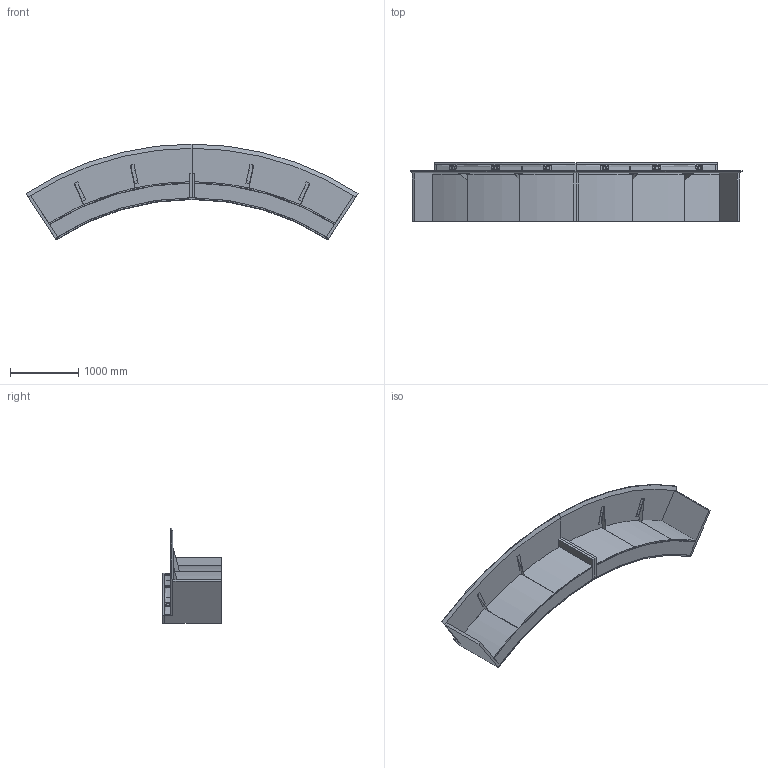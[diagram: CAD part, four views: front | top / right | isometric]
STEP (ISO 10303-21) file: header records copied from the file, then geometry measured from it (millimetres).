
FILE_DESCRIPTION(/* description */ ('','CAx-IF Rec.Pracs.---Representation and Presentation of Product Manufacturing Information (PMI)---4.0---2014-10-13'),/* implementation_level */ '2;1');
FILE_NAME(/* name */ 'TABLE_VIEWLINE 5.stp',/* time_stamp */ '2024-12-07T15:34:33-05:00',/* author */ ('mbowman'),/* organization */ (''),/* preprocessor_version */ 'ST-DEVELOPER v19.2',/* originating_system */ 'Autodesk Inventor 2023',/* authorisation */ '');
FILE_SCHEMA (('AP242_MANAGED_MODEL_BASED_3D_ENGINEERING_MIM_LF { 1 0 10303 442 1 1 4 }'));
Length unit declared in the file: inch
Products named in the file (34): VIEWLINE^TABLE 5_OUT RADIUS TURRET-FULL ASSEMBLY; VIEWLINE^TABLE 5_OUT RADIUS TURRET-LT UNIT ASSEMBLY; VIEWLINE^TABLE 5_ORT LEFT-FRONT PANEL; VIEWLINE^TABLE 5_ORT LEFT-LEFT END; VIEWLINE^TABLE 5_ORT LEFT-TURRET TOP; VIEWLINE^TABLE 5_ORT LEFT-POWER UNIT CORE; VIEWLINE^TABLE 5_ORT LEFT-WORKSURFACE; VIEWLINE^TABLE 5_ORT LEFT-TURRET SUB TOP; VIEWLINE^TABLE 5_ORT LEFT-RIGHT END; VIEWLINE^TABLE 5_ORT LEFT-RIGHT RIB; VIEWLINE^TABLE 5_ORT LEFT-LEFT RIB; VIEWLINE^TABLE 5_ORT LEFT-BOTTOM; VIEWLINE^TABLE 5_ORT LEFT-WW SUB TOP; VIEWLINE^TABLE 5_ORT LEFT-LT ACCESS; VIEWLINE^TABLE 5_ORT LEFT-CTR ACCESS; VIEWLINE^TABLE 5_ORT LEFT-RT ACCESS; CANTILEVER BRACKET H-496_MIR1; VIEWLINE^TABLE 5_OUT RADIUS TURRET-RT UNIT ASSEMBLY; VIEWLINE^TABLE 5_ORT RIGHT- FRONT PANEL; VIEWLINE^TABLE 5_ORT RIGHT-RIGHT END; VIEWLINE^TABLE 5_ORT RIGHT-TURRET TOP; VIEWLINE^TABLE 5_ORT RIGHT-POWER UNIT CORE; VIEWLINE^TABLE 5_ORT RIGHT-WORKSURFACE; VIEWLINE^TABLE 5_ORT RIGHT-TURRET SUB TOP; VIEWLINE^TABLE 5_ORT RIGHT-LEFT END; VIEWLINE^TABLE 5_ORT RIGHT-RIGHT RIB; VIEWLINE^TABLE 5_ORT RIGHT-LEFT RIB; VIEWLINE^TABLE 5_ORT RIGHT-BOTTOM; VIEWLINE^TABLE 5_ORT RIGHT-WW SUB TOP; VIEWLINE^TABLE 5_ORT RIGHT-LT ACCESS; VIEWLINE^TABLE 5_ORT RIGHT-CENTER ACCESS; VIEWLINE^TABLE 5_ORT RIGHT-RT ACCESS; CANTILEVER BRACKET H-496; ASHLEY UNO-BEZEL
Assembly tree (40 placements, depth 3):
  VIEWLINE^TABLE 5_OUT RADIUS TURRET-FULL ASSEMBLY
    VIEWLINE^TABLE 5_OUT RADIUS TURRET-LT UNIT ASSEMBLY
      VIEWLINE^TABLE 5_ORT LEFT-FRONT PANEL
      VIEWLINE^TABLE 5_ORT LEFT-LEFT END
      VIEWLINE^TABLE 5_ORT LEFT-TURRET TOP
      VIEWLINE^TABLE 5_ORT LEFT-POWER UNIT CORE
      VIEWLINE^TABLE 5_ORT LEFT-WORKSURFACE
      VIEWLINE^TABLE 5_ORT LEFT-TURRET SUB TOP
      VIEWLINE^TABLE 5_ORT LEFT-RIGHT END
      VIEWLINE^TABLE 5_ORT LEFT-RIGHT RIB
      VIEWLINE^TABLE 5_ORT LEFT-LEFT RIB
      VIEWLINE^TABLE 5_ORT LEFT-BOTTOM
      VIEWLINE^TABLE 5_ORT LEFT-WW SUB TOP
      VIEWLINE^TABLE 5_ORT LEFT-LT ACCESS
      VIEWLINE^TABLE 5_ORT LEFT-CTR ACCESS
      VIEWLINE^TABLE 5_ORT LEFT-RT ACCESS
      CANTILEVER BRACKET H-496_MIR1  x2
      ASHLEY UNO-BEZEL  x3
    VIEWLINE^TABLE 5_OUT RADIUS TURRET-RT UNIT ASSEMBLY
      VIEWLINE^TABLE 5_ORT RIGHT- FRONT PANEL
      VIEWLINE^TABLE 5_ORT RIGHT-RIGHT END
      VIEWLINE^TABLE 5_ORT RIGHT-TURRET TOP
      VIEWLINE^TABLE 5_ORT RIGHT-POWER UNIT CORE
      VIEWLINE^TABLE 5_ORT RIGHT-WORKSURFACE
      VIEWLINE^TABLE 5_ORT RIGHT-TURRET SUB TOP
      VIEWLINE^TABLE 5_ORT RIGHT-LEFT END
      VIEWLINE^TABLE 5_ORT RIGHT-RIGHT RIB
      VIEWLINE^TABLE 5_ORT RIGHT-LEFT RIB
      VIEWLINE^TABLE 5_ORT RIGHT-BOTTOM
      VIEWLINE^TABLE 5_ORT RIGHT-WW SUB TOP
      VIEWLINE^TABLE 5_ORT RIGHT-LT ACCESS
      VIEWLINE^TABLE 5_ORT RIGHT-CENTER ACCESS
      VIEWLINE^TABLE 5_ORT RIGHT-RT ACCESS
      CANTILEVER BRACKET H-496  x2
      ASHLEY UNO-BEZEL  x3
Bounding box: 4876.8 x 863.6 x 1404.82 mm (x, y, z)
Volume: 365076238.6 mm3; surface area: 32816232.9 mm2
Topology: 44 solids, 44 shells, 660 faces, 1626 edges, 1084 vertices
Faces by surface type: plane 467, cylinder 177, bspline 14, cone 2
Full cylindrical faces by diameter (mm): 4.762 x36
Entity records: 16084 total; most frequent: CARTESIAN_POINT 3407, DIRECTION 2688, ORIENTED_EDGE 1668, AXIS2_PLACEMENT_3D 1064, EDGE_CURVE 834, STYLED_ITEM 582, LINE 560, VECTOR 560
